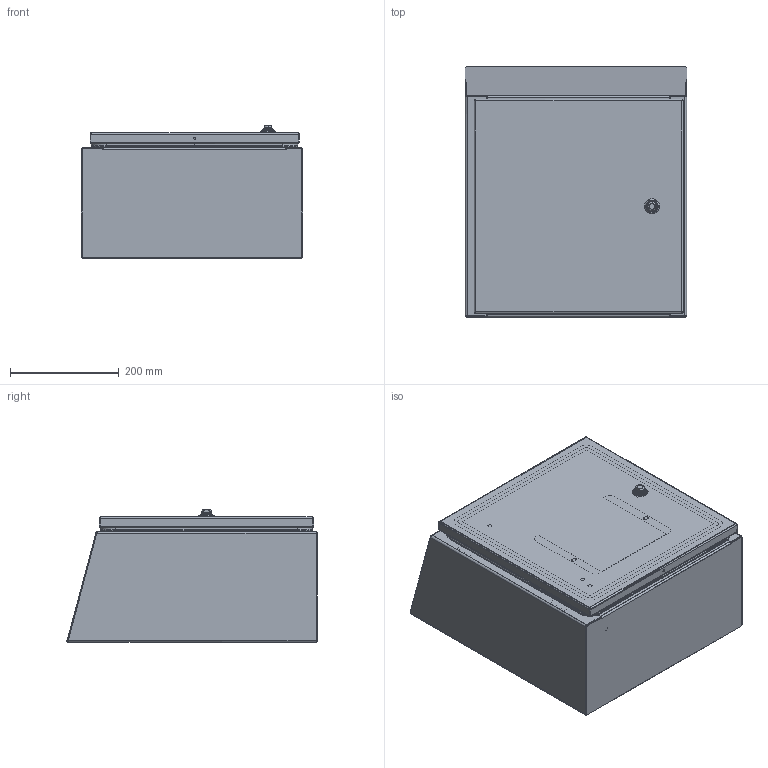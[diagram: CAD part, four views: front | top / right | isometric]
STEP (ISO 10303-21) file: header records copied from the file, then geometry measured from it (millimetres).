
FILE_DESCRIPTION((''),'2;1');
FILE_NAME('MODEL-443_ASM','2021-05-26T09:16:21',('mikek'),('SAGINAW CONTROL & ENGINEERING'),'CREO PARAMETRIC BY PTC INC, 2017260','CREO PARAMETRIC BY PTC INC, 2017260','');
FILE_SCHEMA(('AUTOMOTIVE_DESIGN { 1 0 10303 214 1 1 1 1 }'));
Length unit declared in the file: inch
Products named in the file (31): MODEL-443-BDY; MODEL-443-TP; MODEL-443-BTM; MODEL-443-DR; 100837; 100882; 111541; 116397_SHAFT; 116397_NUT; 116397_INSERT; 116397_SCREW; 116397_OUTER_O-RING; 116397_SUBASSEMBLY_ASM; 116397_CAM; 116397_INNER_O-RING; 116397_ASM; 129123; 129137; 126397; 129137_ASM; 101226; 102483; MODEL-443-DOOR-GASKET; 129279; MODEL-443-DOOR-ASSY_ASM; 101651; 122191; SUBPANEL; 100904; SUBPANEL-SUBASSEMBLY_ASM; MODEL-443_ASM
Assembly tree (50 placements, depth 5):
  MODEL-443_ASM
    MODEL-443-BDY
    MODEL-443-TP
    MODEL-443-BTM
    MODEL-443-DOOR-ASSY_ASM
      MODEL-443-DR
      100837  x5
      100882  x4
      111541
      116397_ASM
        116397_SUBASSEMBLY_ASM
          116397_SHAFT
          116397_NUT
          116397_INSERT
          116397_SCREW
          116397_OUTER_O-RING
        116397_CAM
        116397_INNER_O-RING
      129123  x2
      129137_ASM  x2
        129137
        126397
      101226  x2
      102483  x4
      MODEL-443-DOOR-GASKET
      129279
    100837
    101651  x4
    122191
    SUBPANEL-SUBASSEMBLY_ASM
      SUBPANEL
      100904  x4
Bounding box: 406.4 x 459.89 x 243.43 mm (x, y, z)
Volume: 2328357.9 mm3; surface area: 2153149.3 mm2
Topology: 45 solids, 45 shells, 3119 faces, 7753 edges, 4759 vertices
Faces by surface type: plane 1034, bspline 784, cylinder 746, torus 328, cone 129, sphere 56, extrusion 34, revolution 8
Entity records: 95054 total; most frequent: CARTESIAN_POINT 36900, ORIENTED_EDGE 8408, DIRECTION 7981, PRESENTATION_STYLE_ASSIGNMENT 4276, STYLED_ITEM 4276, EDGE_CURVE 4204, CURVE_STYLE 4198, AXIS2_PLACEMENT_3D 3035
